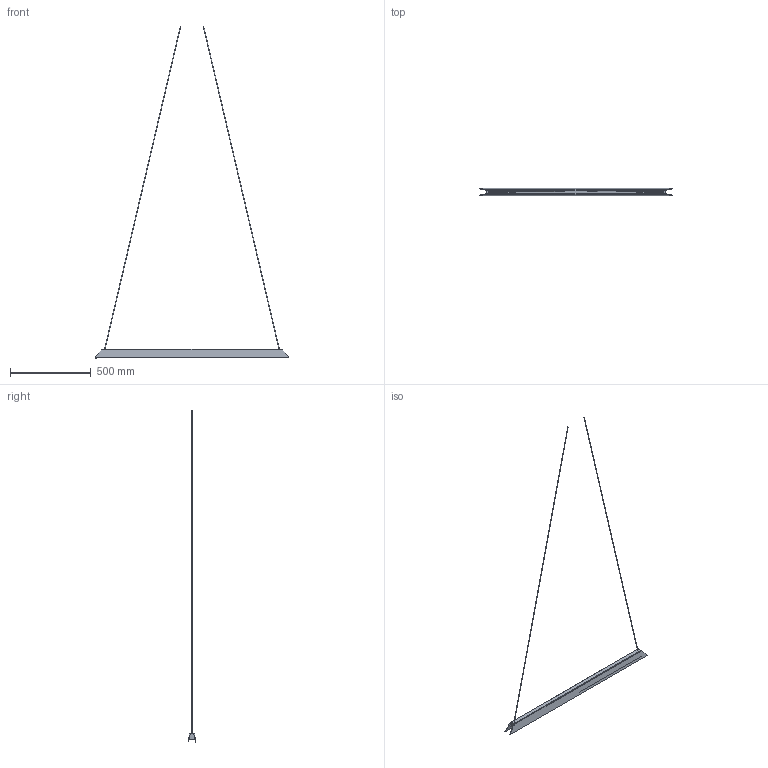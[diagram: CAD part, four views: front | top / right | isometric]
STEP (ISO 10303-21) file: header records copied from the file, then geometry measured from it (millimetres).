
FILE_DESCRIPTION(/* description */ (''),/* implementation_level */ '2;1');
FILE_NAME(/* name */ 'ILKW_TRYANGLE120_C_Pendant_3D',/* time_stamp */ '2026-08-28T16:35:45+09:00',/* author */ (''),/* organization */ (''),/* preprocessor_version */ 'ST-DEVELOPER v19.2',/* originating_system */ 'Rhino 8.21',/* authorisation */ '');
FILE_SCHEMA (('CONFIG_CONTROL_DESIGN'));
Length unit declared in the file: millimetre
Products named in the file (1): Document
Bounding box: 1200 x 47.87 x 2054.48 mm (x, y, z)
Volume: 1729513.3 mm3; surface area: 475320.4 mm2
Topology: 6 solids, 8 shells, 78 faces, 156 edges, 92 vertices
Faces by surface type: plane 34, cylinder 28, bspline 16
Entity records: 2196 total; most frequent: CARTESIAN_POINT 785, ORIENTED_EDGE 304, DIRECTION 164, EDGE_CURVE 156, AXIS2_PLACEMENT_3D 113, VERTEX_POINT 92, B_SPLINE_CURVE_WITH_KNOTS 88, ADVANCED_FACE 78
